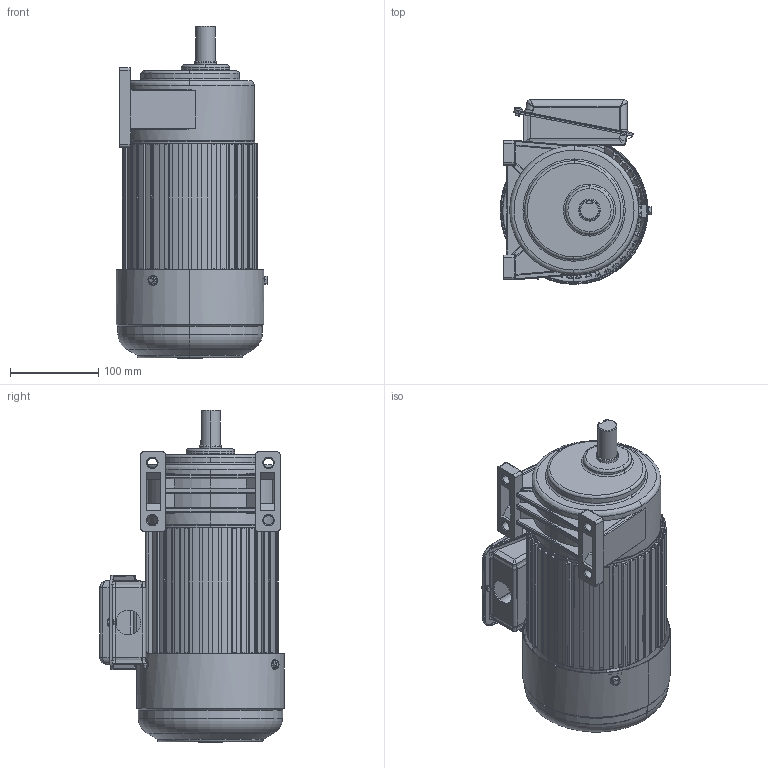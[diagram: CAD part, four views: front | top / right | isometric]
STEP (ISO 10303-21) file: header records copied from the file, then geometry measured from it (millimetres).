
FILE_DESCRIPTION (( 'STEP AP203' ), '1' );
FILE_NAME ('单相750W2#卧式.STEP', '2015-10-31T06:26:45', ( '微软中国' ), ( '微软用户' ), 'SwSTEP 2.0', 'SolidWorks 2009', '' );
FILE_SCHEMA (( 'CONFIG_CONTROL_DESIGN' ));
Products named in the file (11): 棠憤迖殤400W; 鞠褒蹟邡_GB_FASTENER_BOLT_HFBB M5X10-N; Cross recessed pan head screws GB_GB_CROSS_SCREWS_TYPE1 M5X6-6  H type-N; 750W儂褲; 等眈750W2#拏宒; 2#拏宒熬厒ん; 等眈750W; 等眈 瑞欶400W; 等眈諉盄碟窒璃; 等眈諉盄碟裔; 等眈諉盄碟釱
Assembly tree (12 placements, depth 4):
  等眈750W2#拏宒
    2#拏宒熬厒ん
    等眈750W
      鞠褒蹟邡_GB_FASTENER_BOLT_HFBB M5X10-N  x3
      等眈 瑞欶400W
      等眈諉盄碟窒璃
        等眈諉盄碟釱
        等眈諉盄碟裔
        Cross recessed pan head screws GB_GB_CROSS_SCREWS_TYPE1 M5X6-6  H type-N
      750W儂褲
      棠憤迖殤400W
Bounding box: 171.97 x 209.39 x 376.5 mm (x, y, z)
Volume: 2149689.9 mm3; surface area: 607335.7 mm2
Topology: 10 solids, 10 shells, 1417 faces, 3923 edges, 2546 vertices
Faces by surface type: plane 734, cylinder 464, bspline 101, torus 86, cone 30, sphere 2
Entity records: 50463 total; most frequent: CARTESIAN_POINT 14016, ORIENTED_EDGE 7614, DIRECTION 6981, EDGE_CURVE 3807, VERTEX_POINT 2486, LINE 2357, VECTOR 2357, AXIS2_PLACEMENT_3D 2312
